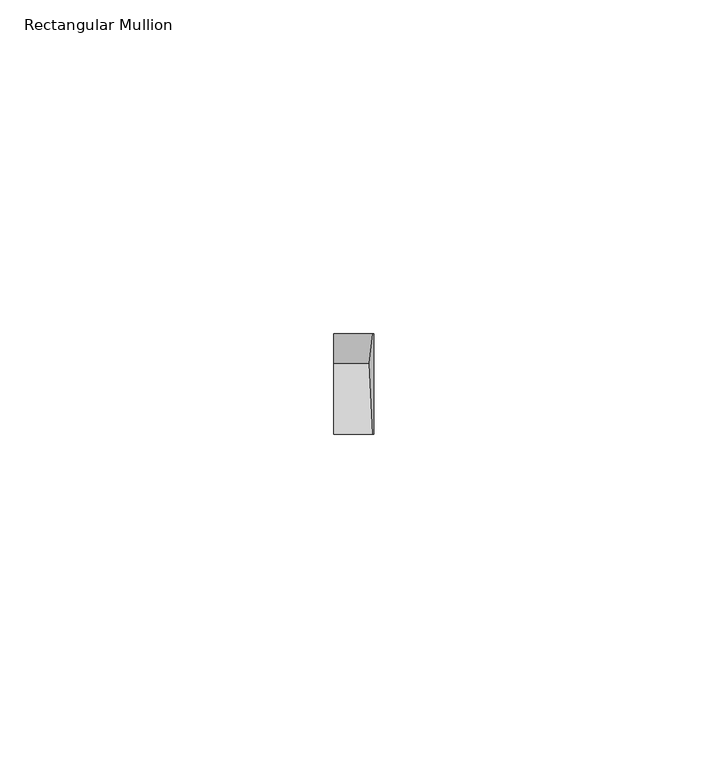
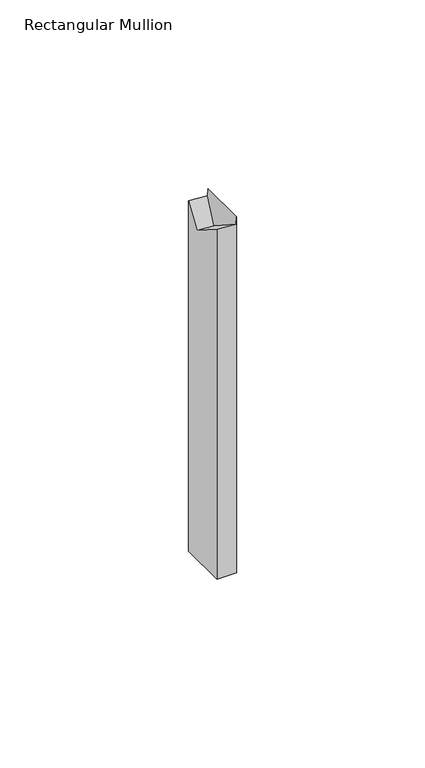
"""IFC4 building model written with IfcOpenShell, lengths in millimetres: member geometry, Rectangular Mullion : ARQ_HERR_15X6mm."""

from ifc_helpers import new_model, si_unit, origin, place, context, project, spatial, faceted_brep, source, transform, mapped, element, save


def rectangular_mullion_7a283d79(model_context):
    return source(origin(), model_context, "Body", "Brep", [
        faceted_brep([(0.0, 7.5, -115.1408807), (0.0, -7.5, -115.1408807), (-6.0, -7.5, -115.1408807), (-6.0, 7.5, -115.1408807), (-6.0, 7.5, -1.7236353), (-0.1769643, 7.5, -2.1934329), (0.0, 7.5, 0.0), (-6.0, -7.5, -1.8381221), (-6.0, 3.0692186, -8.6465903), (0.0, -7.5, 0.0), (-0.1861413, -7.5, -2.3071793), (-0.7318904, 3.0692186, -9.0716169)], [[[0, 1, 2, 3]], [[4, 5, 6, 0, 3]], [[7, 8, 4, 3, 2]], [[9, 10, 7, 2, 1]], [[6, 9, 1, 0]], [[6, 5, 11, 10, 9]], [[5, 4, 8, 11]], [[8, 7, 10, 11]]]),
    ])


if __name__ == "__main__":
    model = new_model("IFC4")
    model_context = context("Model", 3, world=origin())
    ifc_project = project(units=[si_unit("LENGTHUNIT", "METRE", prefix="MILLI")], contexts=[model_context])
    site = spatial("IfcSite", under=ifc_project)
    building = spatial("IfcBuilding", under=site)
    placement = place(None, origin())
    rectangular_mullion_shape = rectangular_mullion_7a283d79(model_context)
    element("IfcMember", 1, ObjectType="Rectangular Mullion : ARQ_HERR_15X6mm", at=placement, inside=building, context=model_context, shape_type="MappedRepresentation", body=[
        mapped(rectangular_mullion_shape, transform((0.0, 0.0, 0.0), x_axis=(1.0, 0.0, 0.0), y_axis=(0.0, 1.0, 0.0), z_axis=(0.0, 0.0, 1.0))),
    ])
    save(model, "model.ifc")
